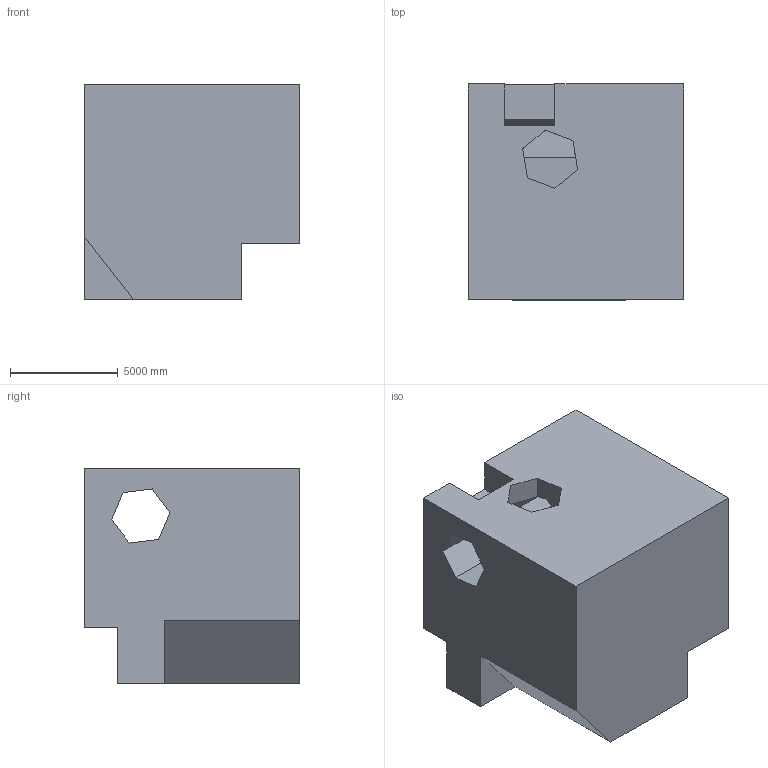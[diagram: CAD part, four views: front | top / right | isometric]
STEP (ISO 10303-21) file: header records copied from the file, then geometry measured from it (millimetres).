
FILE_DESCRIPTION (( 'STEP AP203' ), '1' );
FILE_NAME ('1501.STEP', '2022-08-18T14:52:09', ( 'user' ), ( '' ), 'SwSTEP 2.0', 'SolidWorks 2021', '' );
FILE_SCHEMA (( 'CONFIG_CONTROL_DESIGN' ));
Length unit declared in the file: centimetre
Products named in the file (1): 1501
Bounding box: 10000 x 10000 x 10000 mm (x, y, z)
Volume: 819186163734.8 mm3; surface area: 648326270.9 mm2
Topology: 1 solids, 1 shells, 28 faces, 87 edges, 58 vertices
Faces by surface type: plane 28
Entity records: 1040 total; most frequent: ORIENTED_EDGE 174, CARTESIAN_POINT 174, DIRECTION 145, VECTOR 87, LINE 87, EDGE_CURVE 87, VERTEX_POINT 58, EDGE_LOOP 31
